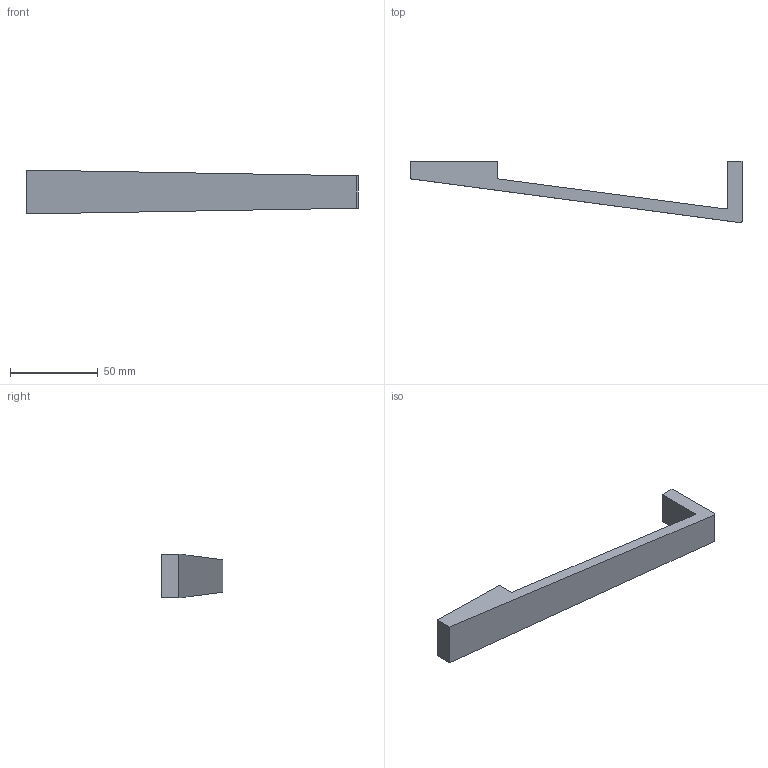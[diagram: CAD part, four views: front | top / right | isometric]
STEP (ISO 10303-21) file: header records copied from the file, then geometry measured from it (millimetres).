
FILE_DESCRIPTION( ( 'STEP AP214' ), '1' );
FILE_NAME( 'C:/Users/KOSH/Desktop/2021/Sunil/New folder/9097953.stp', '2021-11-15T12:36:51', ( '' ), ( '' ), ' ', 'PARTsolutions', ' ' );
FILE_SCHEMA( ( 'AUTOMOTIVE_DESIGN { 1 0 10303 214 1 1 1 1 }' ) );
Length unit declared in the file: millimetre
Products named in the file (1): _9097953
Bounding box: 189 x 35 x 25 mm (x, y, z)
Volume: 39359.5 mm3; surface area: 13724.7 mm2
Topology: 1 solids, 1 shells, 16 faces, 36 edges, 24 vertices
Faces by surface type: plane 12, cylinder 4
Full cylindrical faces by diameter (mm): 4 x2
Entity records: 582 total; most frequent: DIRECTION 76, CARTESIAN_POINT 75, ORIENTED_EDGE 68, EDGE_CURVE 34, LINE 26, VECTOR 26, AXIS2_PLACEMENT_3D 25, VERTEX_POINT 24
